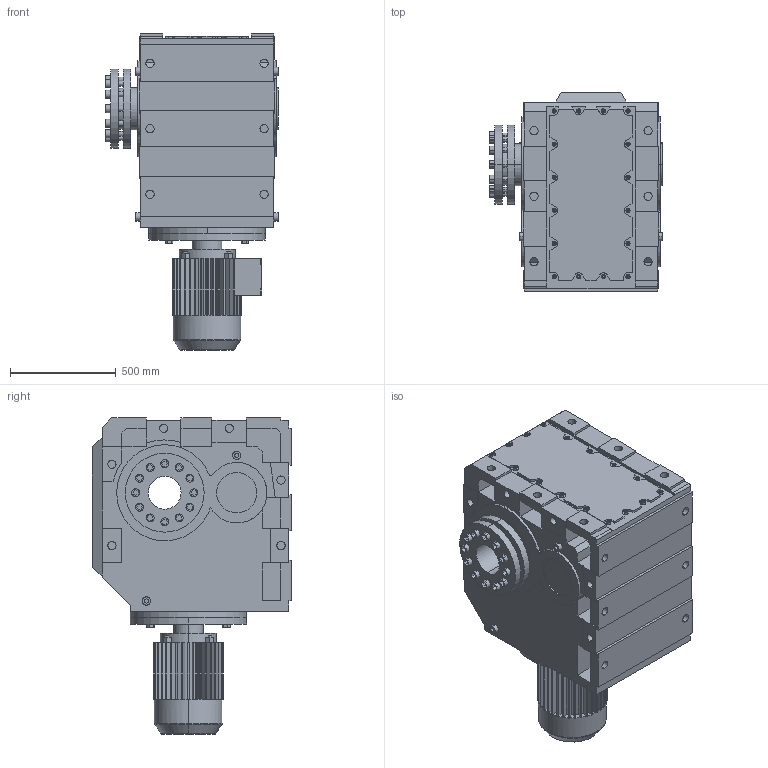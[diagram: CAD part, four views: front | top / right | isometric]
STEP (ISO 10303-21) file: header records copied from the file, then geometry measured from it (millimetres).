
FILE_DESCRIPTION(('Open CASCADE Model'),'2;1');
FILE_NAME('Open CASCADE Shape Model','2021-07-20T14:16:43',('Author'),( 'Open CASCADE'),'Open CASCADE STEP processor 6.3','Open CASCADE 6.3' ,'Unknown');
FILE_SCHEMA(('AUTOMOTIVE_DESIGN_CC2 { 1 2 10303 214 -1 1 5 4 }'));
Length unit declared in the file: millimetre
Products named in the file (4): 1_KH187DV180-A; K167‵187_187.step; 萇儂_550-DV180-552-708-331-258.step; 梠攫諾陑粣K_187.step
Assembly tree (3 placements, depth 2):
  1_KH187DV180-A
    K167‵187_187.step
    萇儂_550-DV180-552-708-331-258.step
    梠攫諾陑粣K_187.step
Bounding box: 816.25 x 942 x 1498 mm (x, y, z)
Volume: 540376962.2 mm3; surface area: 8363937.1 mm2
Topology: 3 solids, 3 shells, 1053 faces, 2712 edges, 1774 vertices
Faces by surface type: plane 708, cylinder 339, torus 4, cone 2
Entity records: 67312 total; most frequent: CARTESIAN_POINT 15120, DIRECTION 9119, ORIENTED_EDGE 5424, PCURVE 5424, DEFINITIONAL_REPRESENTATION 5424, LINE 4910, VECTOR 4910, EDGE_CURVE 2712
